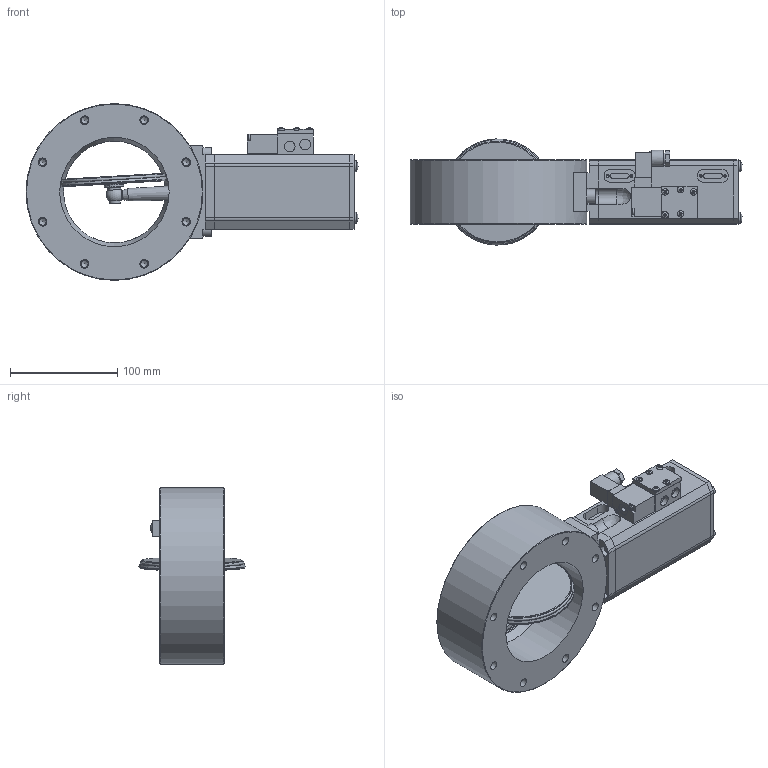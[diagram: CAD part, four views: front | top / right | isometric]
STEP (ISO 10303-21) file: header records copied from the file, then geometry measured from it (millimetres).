
FILE_DESCRIPTION(/* description */ (''),/* implementation_level */ '2;1');
FILE_NAME(/* name */ '1183774042_203.stp',/* time_stamp */ '2010-10-13T08:36:29+02:00',/* author */ (''),/* organization */ (''),/* preprocessor_version */ 'ST-DEVELOPER v11',/* originating_system */ 'SIEMENS UGS NX 6.0',/* authorisation */ '');
FILE_SCHEMA (('CONFIG_CONTROL_DESIGN'));
Length unit declared in the file: millimetre
Products named in the file (24): N-6089-308.1; 336404; N-7557-016_1.1; N-7557-018.1; N-7557-016_2.1; N-7557-016_3.1; N-6024-524.1; N-5018-005.1; 365072; 372221; 224223.6; 223892.5; 224374.6; 233106.4; 224315.3; 233137.1; 225582.1; N-6005-474.1; 224828.2; N-6013-443.2; 94800-r1.7_NX-ARRAGMNTKONFIG4; 372317_MODEL; 336413_NX-ARRAGMNTZUSAMMENST1; 372798
Assembly tree (36 placements, depth 4):
  372798
    N-6013-443.2  x4
    224828.2  x2
    N-6005-474.1
    225582.1  x4
    233137.1
    224315.3
    233106.4
    224374.6
    223892.5
    224223.6
    336413_NX-ARRAGMNTZUSAMMENST1
      372317_MODEL
        336404
        N-6089-308.1
      372221
      365072
    94800-r1.7_NX-ARRAGMNTKONFIG4
      N-5018-005.1  x2
      N-6024-524.1  x6
      N-7557-016_3.1
      N-7557-016_2.1
      N-7557-018.1
      N-7557-016_1.1
Bounding box: 309.7 x 98.96 x 165 mm (x, y, z)
Volume: 1219367.5 mm3; surface area: 239150 mm2
Topology: 39 solids, 39 shells, 974 faces, 2370 edges, 1551 vertices
Faces by surface type: plane 582, cylinder 260, cone 86, torus 16, sphere 13, bspline 13, extrusion 4
Full cylindrical faces by diameter (mm): 1.2 x2, 2 x2, 2.2 x4, 2.5 x6, 2.7 x2, 3 x11, 3.2 x4, 3.3 x4, 3.4 x4, 3.5 x4, 4 x13, 4.4 x12, 4.96 x1, 5 x16, 5.006 x1, 5.4 x8, 6 x12, 6.3 x1, 6.4 x12, 6.66 x2, 6.7 x2, 6.8 x2, 6.9 x1, 7.008 x1, 7.3 x2, 7.5 x5, 8 x24, 8.2 x2, 8.8 x2, 9.95 x1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
Entity records: 23951 total; most frequent: CARTESIAN_POINT 4715, DIRECTION 3353, ORIENTED_EDGE 2894, EDGE_CURVE 1447, AXIS2_PLACEMENT_3D 1325, EDGE_LOOP 1166, VERTEX_POINT 1133, FACE_BOUND 853
